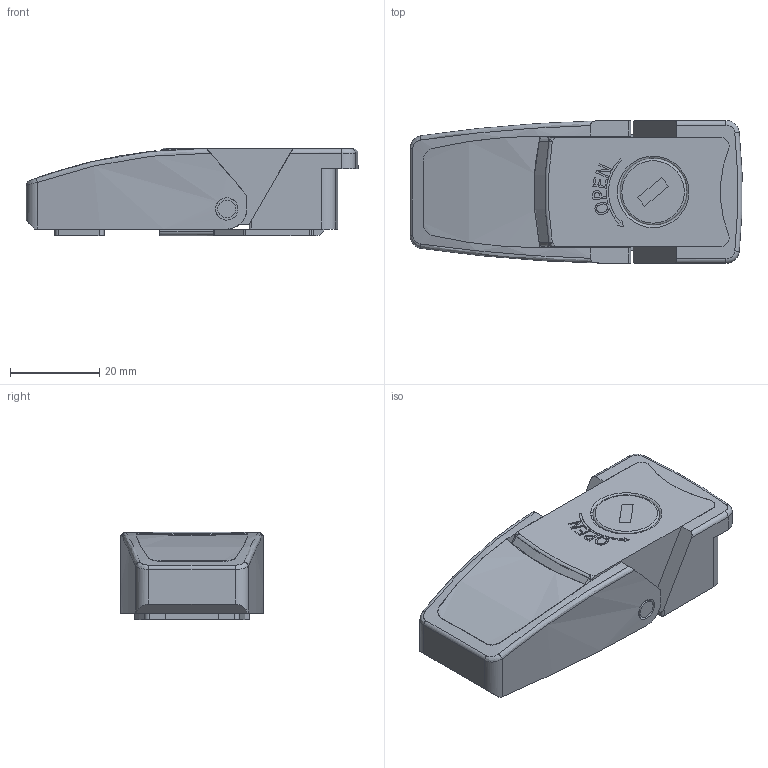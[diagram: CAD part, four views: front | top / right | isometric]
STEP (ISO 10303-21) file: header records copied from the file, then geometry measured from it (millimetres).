
FILE_DESCRIPTION(/* description */ (''),/* implementation_level */ '2;1');
FILE_NAME(/* name */ '\\NAS\db20\C-CS2-K-316\DR_C-CS2-K-316.stp',/* time_stamp */ '2018-03-01T10:32:03+09:00',/* author */ ('user'),/* organization */ (''),/* preprocessor_version */ 'ST-DEVELOPER v15.6',/* originating_system */ 'Autodesk Inventor 2015',/* authorisation */ '');
FILE_SCHEMA (('AUTOMOTIVE_DESIGN { 1 0 10303 214 3 1 1 }'));
Length unit declared in the file: millimetre
Products named in the file (5): DR_C-CS2-K-316-BR; DR_C-CS2-K-316-C; DR_C-CS2-K-316-H; DR_C-CS2-K-316-P; DR_C-CS2-K-316
Bounding box: 74.42 x 32 x 19.6 mm (x, y, z)
Volume: 16033.4 mm3; surface area: 18900.2 mm2
Topology: 7 solids, 7 shells, 327 faces, 861 edges, 560 vertices
Faces by surface type: plane 168, cylinder 103, bspline 39, torus 9, cone 8
Full cylindrical faces by diameter (mm): 3 x8, 3.5 x4, 4 x3, 5 x3, 5.5 x2, 6 x1, 15 x2, 16 x1
Entity records: 10862 total; most frequent: CARTESIAN_POINT 2954, ORIENTED_EDGE 1634, DIRECTION 1520, EDGE_CURVE 816, VERTEX_POINT 548, AXIS2_PLACEMENT_3D 518, LINE 484, VECTOR 484
